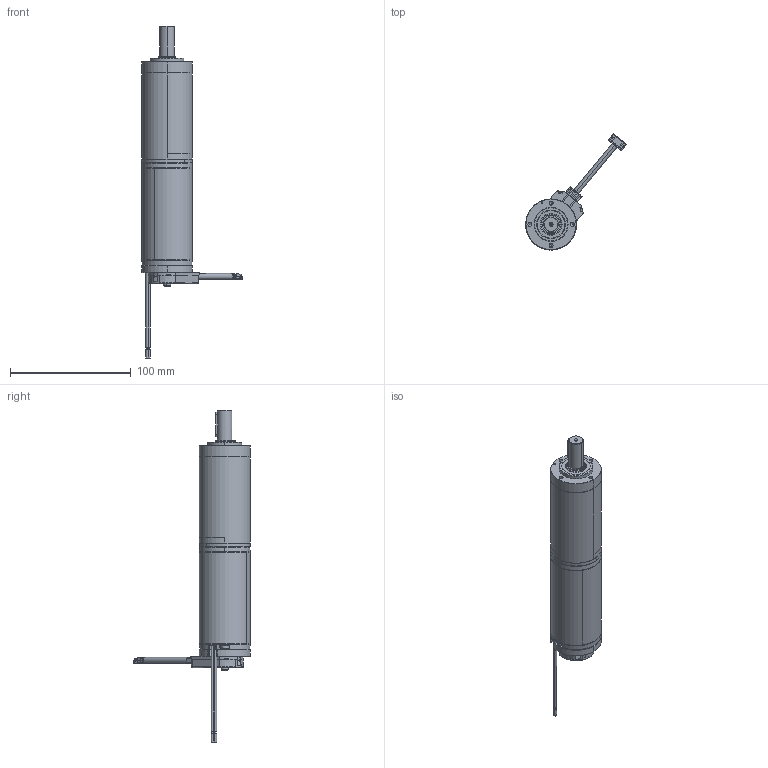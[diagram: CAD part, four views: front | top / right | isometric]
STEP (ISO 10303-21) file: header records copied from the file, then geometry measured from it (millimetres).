
FILE_DESCRIPTION (( 'STEP AP214' ), '1' );
FILE_NAME ('BRx42-40-PGx42 (4 Stage) - Incr Encoder.STEP', '2025-05-13T06:08:07', ( '' ), ( '' ), 'SwSTEP 2.0', 'SolidWorks 2023', '' );
FILE_SCHEMA (( 'AUTOMOTIVE_DESIGN' ));
Length unit declared in the file: millimetre
Products named in the file (1): BRx42-40-PGx42 (4 Stage) - Incr Encoder
Bounding box: 83.29 x 96.2 x 274.85 mm (x, y, z)
Volume: 168693.5 mm3; surface area: 77519.6 mm2
Topology: 35 solids, 35 shells, 3676 faces, 9423 edges, 5990 vertices
Faces by surface type: plane 1912, cylinder 724, cone 525, torus 245, bspline 234, sphere 36
Entity records: 165040 total; most frequent: CARTESIAN_POINT 35984, ORIENTED_EDGE 18782, DIRECTION 17744, EDGE_CURVE 9391, AXIS2_PLACEMENT_3D 6279, VERTEX_POINT 5990, LINE 5186, VECTOR 5186
